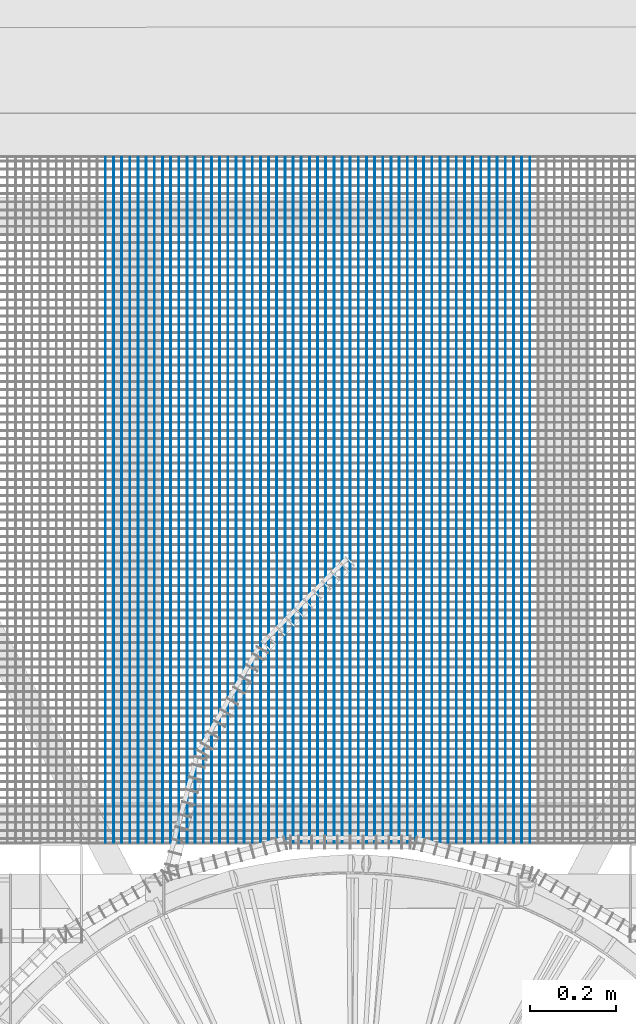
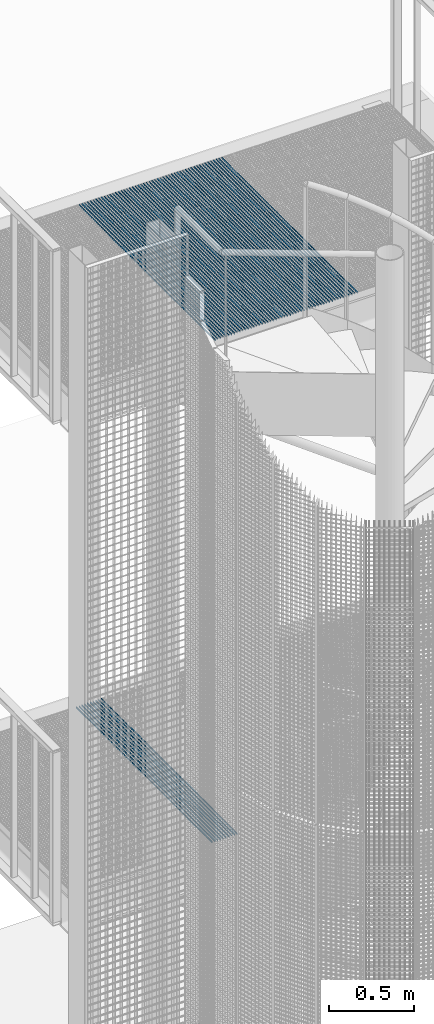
# One storey, part 81 of 1148: 62 beams, 2 elements without a shape of their own.
"""IFC2X3 building model written with IfcOpenShell, lengths in millimetres."""

from ifc_helpers import new_model, si_unit, frame, origin_with_axes, origin_2d_with_axis, place, context, subcontext, project, spatial, rectangle, extrude, material, type_object, element, aggregate, save


model = new_model("IFC2X3")

# Units and contexts
model_context = context("Model", 3, precision=1e-05, world=origin_with_axes())
body_context = subcontext(model_context, "Body", "Model", "MODEL_VIEW")
ifc_project = project(units=[si_unit("LENGTHUNIT", "METRE", prefix="MILLI"), si_unit("AREAUNIT", "SQUARE_METRE"), si_unit("VOLUMEUNIT", "CUBIC_METRE"), si_unit("MASSUNIT", "GRAM", prefix="KILO"), si_unit("TIMEUNIT", "SECOND"), si_unit("PLANEANGLEUNIT", "RADIAN"), si_unit("SOLIDANGLEUNIT", "STERADIAN"), si_unit("THERMODYNAMICTEMPERATUREUNIT", "DEGREE_CELSIUS"), si_unit("LUMINOUSINTENSITYUNIT", "LUMEN")], contexts=[model_context])

# Site, building, storey
site_placement = place(None, origin_with_axes())
site = spatial("IfcSite", under=ifc_project, at=site_placement, Name="Undefined", CompositionType="ELEMENT")
building_placement = place(site_placement, origin_with_axes())
building = spatial("IfcBuilding", under=site, at=building_placement, Name="Undefined", CompositionType="ELEMENT")
storey_placement = place(building_placement, origin_with_axes())
storey = spatial("IfcBuildingStorey", under=building, at=storey_placement, Name="Undefined", CompositionType="ELEMENT", Elevation=0.0)

# Assembly, beams
assembly_1_placement = place(storey_placement, origin_with_axes())
assembly_1 = element("IfcElementAssembly", 1, at=assembly_1_placement, inside=storey, Name="BORDURE", AssemblyPlace="NOTDEFINED", PredefinedType="NOTDEFINED")
ifc_material = material(Name="STEEL/S235JR")
beam_type = type_object("IfcBeamType", Name="PL2*10", PredefinedType="NOTDEFINED")
beam_1_placement = place(assembly_1_placement, frame((-550.92457525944, 1101.99960699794, 17285.0), z_axis=(0.0, 0.0, 1.0), x_axis=(-4.50599999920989e-06, 0.999999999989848, 0.0)))
beam_1 = element("IfcBeam", 2, at=beam_1_placement, type_object=beam_type, material=ifc_material, Name="ENTRETOISE", context=body_context, shape_type="SweptSolid", body=[
    extrude(rectangle(XDim=2.0, YDim=10.0, at=origin_2d_with_axis()), frame((1596.0000000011, -1.35186458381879e-18, -7.27595761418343e-12), z_axis=(-1.0, 0.0, 0.0), x_axis=(0.0, -1.0, 0.0)), (0.0, 0.0, 1.0), 1596.0),
])
beam_2_placement = place(assembly_1_placement, frame((-531.924575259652, 1101.99970051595, 17285.0), z_axis=(0.0, 0.0, 1.0), x_axis=(-4.50599999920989e-06, 0.999999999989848, 0.0)))
beam_2 = element("IfcBeam", 3, at=beam_2_placement, type_object=beam_type, material=ifc_material, Name="ENTRETOISE", context=body_context, shape_type="SweptSolid", body=[
    extrude(rectangle(XDim=2.0, YDim=10.0, at=origin_2d_with_axis()), frame((1596.0000000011, -1.35186458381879e-18, -7.27595761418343e-12), z_axis=(-1.0, 0.0, 0.0), x_axis=(0.0, -1.0, 0.0)), (0.0, 0.0, 1.0), 1596.0),
])
beam_3_placement = place(assembly_1_placement, frame((-512.924575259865, 1101.99979403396, 17285.0), z_axis=(0.0, 0.0, 1.0), x_axis=(-4.50599999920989e-06, 0.999999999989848, 0.0)))
beam_3 = element("IfcBeam", 4, at=beam_3_placement, type_object=beam_type, material=ifc_material, Name="ENTRETOISE", context=body_context, shape_type="SweptSolid", body=[
    extrude(rectangle(XDim=2.0, YDim=10.0, at=origin_2d_with_axis()), frame((1596.0000000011, -1.35186458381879e-18, -7.27595761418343e-12), z_axis=(-1.0, 0.0, 0.0), x_axis=(0.0, -1.0, 0.0)), (0.0, 0.0, 1.0), 1596.0),
])
beam_4_placement = place(assembly_1_placement, frame((-493.924575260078, 1101.99988755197, 17285.0), z_axis=(0.0, 0.0, 1.0), x_axis=(-4.50599999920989e-06, 0.999999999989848, 0.0)))
beam_4 = element("IfcBeam", 5, at=beam_4_placement, type_object=beam_type, material=ifc_material, Name="ENTRETOISE", context=body_context, shape_type="SweptSolid", body=[
    extrude(rectangle(XDim=2.0, YDim=10.0, at=origin_2d_with_axis()), frame((1596.0000000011, -1.35186458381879e-18, -7.27595761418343e-12), z_axis=(-1.0, 0.0, 0.0), x_axis=(0.0, -1.0, 0.0)), (0.0, 0.0, 1.0), 1596.0),
])
beam_5_placement = place(assembly_1_placement, frame((-474.924575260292, 1101.99998106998, 17285.0), z_axis=(0.0, 0.0, 1.0), x_axis=(-4.50599999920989e-06, 0.999999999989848, 0.0)))
beam_5 = element("IfcBeam", 6, at=beam_5_placement, type_object=beam_type, material=ifc_material, Name="ENTRETOISE", context=body_context, shape_type="SweptSolid", body=[
    extrude(rectangle(XDim=2.0, YDim=10.0, at=origin_2d_with_axis()), frame((1596.0000000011, -1.35186458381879e-18, -7.27595761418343e-12), z_axis=(-1.0, 0.0, 0.0), x_axis=(0.0, -1.0, 0.0)), (0.0, 0.0, 1.0), 1596.0),
])
beam_6_placement = place(assembly_1_placement, frame((-455.924575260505, 1102.00007458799, 17285.0), z_axis=(0.0, 0.0, 1.0), x_axis=(-4.50599999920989e-06, 0.999999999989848, 0.0)))
beam_6 = element("IfcBeam", 7, at=beam_6_placement, type_object=beam_type, material=ifc_material, Name="ENTRETOISE", context=body_context, shape_type="SweptSolid", body=[
    extrude(rectangle(XDim=2.0, YDim=10.0, at=origin_2d_with_axis()), frame((1596.0000000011, -1.35186458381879e-18, -7.27595761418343e-12), z_axis=(-1.0, 0.0, 0.0), x_axis=(0.0, -1.0, 0.0)), (0.0, 0.0, 1.0), 1596.0),
])
beam_7_placement = place(assembly_1_placement, frame((-436.924575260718, 1102.00016810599, 17285.0), z_axis=(0.0, 0.0, 1.0), x_axis=(-4.50599999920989e-06, 0.999999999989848, 0.0)))
beam_7 = element("IfcBeam", 8, at=beam_7_placement, type_object=beam_type, material=ifc_material, Name="ENTRETOISE", context=body_context, shape_type="SweptSolid", body=[
    extrude(rectangle(XDim=2.0, YDim=10.0, at=origin_2d_with_axis()), frame((1596.0000000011, -1.35186458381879e-18, -7.27595761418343e-12), z_axis=(-1.0, 0.0, 0.0), x_axis=(0.0, -1.0, 0.0)), (0.0, 0.0, 1.0), 1596.0),
])
beam_8_placement = place(assembly_1_placement, frame((-417.924575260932, 1102.000261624, 17285.0), z_axis=(0.0, 0.0, 1.0), x_axis=(-4.50599999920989e-06, 0.999999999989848, 0.0)))
beam_8 = element("IfcBeam", 9, at=beam_8_placement, type_object=beam_type, material=ifc_material, Name="ENTRETOISE", context=body_context, shape_type="SweptSolid", body=[
    extrude(rectangle(XDim=2.0, YDim=10.0, at=origin_2d_with_axis()), frame((1596.0000000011, -1.35186458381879e-18, -7.27595761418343e-12), z_axis=(-1.0, 0.0, 0.0), x_axis=(0.0, -1.0, 0.0)), (0.0, 0.0, 1.0), 1596.0),
])
beam_9_placement = place(assembly_1_placement, frame((-398.924575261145, 1102.00035514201, 17285.0), z_axis=(0.0, 0.0, 1.0), x_axis=(-4.50599999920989e-06, 0.999999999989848, 0.0)))
beam_9 = element("IfcBeam", 10, at=beam_9_placement, type_object=beam_type, material=ifc_material, Name="ENTRETOISE", context=body_context, shape_type="SweptSolid", body=[
    extrude(rectangle(XDim=2.0, YDim=10.0, at=origin_2d_with_axis()), frame((1596.0000000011, -1.35186458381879e-18, -7.27595761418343e-12), z_axis=(-1.0, 0.0, 0.0), x_axis=(0.0, -1.0, 0.0)), (0.0, 0.0, 1.0), 1596.0),
])
beam_10_placement = place(assembly_1_placement, frame((-379.924575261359, 1102.00044866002, 17285.0), z_axis=(0.0, 0.0, 1.0), x_axis=(-4.50599999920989e-06, 0.999999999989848, 0.0)))
beam_10 = element("IfcBeam", 11, at=beam_10_placement, type_object=beam_type, material=ifc_material, Name="ENTRETOISE", context=body_context, shape_type="SweptSolid", body=[
    extrude(rectangle(XDim=2.0, YDim=10.0, at=origin_2d_with_axis()), frame((1596.0000000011, -1.35186458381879e-18, -7.27595761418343e-12), z_axis=(-1.0, 0.0, 0.0), x_axis=(0.0, -1.0, 0.0)), (0.0, 0.0, 1.0), 1596.0),
])
beam_11_placement = place(assembly_1_placement, frame((-360.924575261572, 1102.00054217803, 17285.0), z_axis=(0.0, 0.0, 1.0), x_axis=(-4.50599999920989e-06, 0.999999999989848, 0.0)))
beam_11 = element("IfcBeam", 12, at=beam_11_placement, type_object=beam_type, material=ifc_material, Name="ENTRETOISE", context=body_context, shape_type="SweptSolid", body=[
    extrude(rectangle(XDim=2.0, YDim=10.0, at=origin_2d_with_axis()), frame((1596.0000000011, -1.35186458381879e-18, -7.27595761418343e-12), z_axis=(-1.0, 0.0, 0.0), x_axis=(0.0, -1.0, 0.0)), (0.0, 0.0, 1.0), 1596.0),
])
beam_12_placement = place(assembly_1_placement, frame((-341.924575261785, 1102.00063569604, 17285.0), z_axis=(0.0, 0.0, 1.0), x_axis=(-4.50599999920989e-06, 0.999999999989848, 0.0)))
beam_12 = element("IfcBeam", 13, at=beam_12_placement, type_object=beam_type, material=ifc_material, Name="ENTRETOISE", context=body_context, shape_type="SweptSolid", body=[
    extrude(rectangle(XDim=2.0, YDim=10.0, at=origin_2d_with_axis()), frame((1596.0000000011, -1.35186458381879e-18, -7.27595761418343e-12), z_axis=(-1.0, 0.0, 0.0), x_axis=(0.0, -1.0, 0.0)), (0.0, 0.0, 1.0), 1596.0),
])
beam_13_placement = place(assembly_1_placement, frame((-322.924575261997, 1102.00072921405, 17285.0), z_axis=(0.0, 0.0, 1.0), x_axis=(-4.50599999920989e-06, 0.999999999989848, 0.0)))
beam_13 = element("IfcBeam", 14, at=beam_13_placement, type_object=beam_type, material=ifc_material, Name="ENTRETOISE", context=body_context, shape_type="SweptSolid", body=[
    extrude(rectangle(XDim=2.0, YDim=10.0, at=origin_2d_with_axis()), frame((1596.0000000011, -1.35186458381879e-18, -7.27595761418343e-12), z_axis=(-1.0, 0.0, 0.0), x_axis=(0.0, -1.0, 0.0)), (0.0, 0.0, 1.0), 1596.0),
])
beam_14_placement = place(assembly_1_placement, frame((-303.924575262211, 1102.00082273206, 17285.0), z_axis=(0.0, 0.0, 1.0), x_axis=(-4.50599999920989e-06, 0.999999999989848, 0.0)))
beam_14 = element("IfcBeam", 15, at=beam_14_placement, type_object=beam_type, material=ifc_material, Name="ENTRETOISE", context=body_context, shape_type="SweptSolid", body=[
    extrude(rectangle(XDim=2.0, YDim=10.0, at=origin_2d_with_axis()), frame((1596.0000000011, -1.35186458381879e-18, -7.27595761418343e-12), z_axis=(-1.0, 0.0, 0.0), x_axis=(0.0, -1.0, 0.0)), (0.0, 0.0, 1.0), 1596.0),
])
beam_15_placement = place(assembly_1_placement, frame((-284.924575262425, 1102.00091625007, 17285.0), z_axis=(0.0, 0.0, 1.0), x_axis=(-4.50599999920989e-06, 0.999999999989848, 0.0)))
beam_15 = element("IfcBeam", 16, at=beam_15_placement, type_object=beam_type, material=ifc_material, Name="ENTRETOISE", context=body_context, shape_type="SweptSolid", body=[
    extrude(rectangle(XDim=2.0, YDim=10.0, at=origin_2d_with_axis()), frame((1596.0000000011, -1.35186458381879e-18, -7.27595761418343e-12), z_axis=(-1.0, 0.0, 0.0), x_axis=(0.0, -1.0, 0.0)), (0.0, 0.0, 1.0), 1596.0),
])
beam_16_placement = place(assembly_1_placement, frame((-265.924575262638, 1102.00100976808, 17285.0), z_axis=(0.0, 0.0, 1.0), x_axis=(-4.50599999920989e-06, 0.999999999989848, 0.0)))
beam_16 = element("IfcBeam", 17, at=beam_16_placement, type_object=beam_type, material=ifc_material, Name="ENTRETOISE", context=body_context, shape_type="SweptSolid", body=[
    extrude(rectangle(XDim=2.0, YDim=10.0, at=origin_2d_with_axis()), frame((1596.0000000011, -1.35186458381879e-18, -7.27595761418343e-12), z_axis=(-1.0, 0.0, 0.0), x_axis=(0.0, -1.0, 0.0)), (0.0, 0.0, 1.0), 1596.0),
])
beam_17_placement = place(assembly_1_placement, frame((-246.92457526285, 1102.00110328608, 17285.0), z_axis=(0.0, 0.0, 1.0), x_axis=(-4.50599999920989e-06, 0.999999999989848, 0.0)))
beam_17 = element("IfcBeam", 18, at=beam_17_placement, type_object=beam_type, material=ifc_material, Name="ENTRETOISE", context=body_context, shape_type="SweptSolid", body=[
    extrude(rectangle(XDim=2.0, YDim=10.0, at=origin_2d_with_axis()), frame((1596.0000000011, -1.35186458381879e-18, -7.27595761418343e-12), z_axis=(-1.0, 0.0, 0.0), x_axis=(0.0, -1.0, 0.0)), (0.0, 0.0, 1.0), 1596.0),
])
beam_18_placement = place(assembly_1_placement, frame((-227.924575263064, 1102.00119680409, 17285.0), z_axis=(0.0, 0.0, 1.0), x_axis=(-4.50599999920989e-06, 0.999999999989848, 0.0)))
beam_18 = element("IfcBeam", 19, at=beam_18_placement, type_object=beam_type, material=ifc_material, Name="ENTRETOISE", context=body_context, shape_type="SweptSolid", body=[
    extrude(rectangle(XDim=2.0, YDim=10.0, at=origin_2d_with_axis()), frame((1596.0000000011, -1.35186458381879e-18, -7.27595761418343e-12), z_axis=(-1.0, 0.0, 0.0), x_axis=(0.0, -1.0, 0.0)), (0.0, 0.0, 1.0), 1596.0),
])
beam_19_placement = place(assembly_1_placement, frame((-208.924575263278, 1102.0012903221, 17285.0), z_axis=(0.0, 0.0, 1.0), x_axis=(-4.50599999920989e-06, 0.999999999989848, 0.0)))
beam_19 = element("IfcBeam", 20, at=beam_19_placement, type_object=beam_type, material=ifc_material, Name="ENTRETOISE", context=body_context, shape_type="SweptSolid", body=[
    extrude(rectangle(XDim=2.0, YDim=10.0, at=origin_2d_with_axis()), frame((1596.0000000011, -1.35186458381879e-18, -7.27595761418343e-12), z_axis=(-1.0, 0.0, 0.0), x_axis=(0.0, -1.0, 0.0)), (0.0, 0.0, 1.0), 1596.0),
])
beam_20_placement = place(assembly_1_placement, frame((-189.924575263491, 1102.00138384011, 17285.0), z_axis=(0.0, 0.0, 1.0), x_axis=(-4.50599999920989e-06, 0.999999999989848, 0.0)))
beam_20 = element("IfcBeam", 21, at=beam_20_placement, type_object=beam_type, material=ifc_material, Name="ENTRETOISE", context=body_context, shape_type="SweptSolid", body=[
    extrude(rectangle(XDim=2.0, YDim=10.0, at=origin_2d_with_axis()), frame((1596.0000000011, -1.35186458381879e-18, -7.27595761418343e-12), z_axis=(-1.0, 0.0, 0.0), x_axis=(0.0, -1.0, 0.0)), (0.0, 0.0, 1.0), 1596.0),
])
beam_21_placement = place(assembly_1_placement, frame((-170.924575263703, 1102.00147735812, 17285.0), z_axis=(0.0, 0.0, 1.0), x_axis=(-4.50599999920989e-06, 0.999999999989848, 0.0)))
beam_21 = element("IfcBeam", 22, at=beam_21_placement, type_object=beam_type, material=ifc_material, Name="ENTRETOISE", context=body_context, shape_type="SweptSolid", body=[
    extrude(rectangle(XDim=2.0, YDim=10.0, at=origin_2d_with_axis()), frame((1596.0000000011, -1.35186458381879e-18, -7.27595761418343e-12), z_axis=(-1.0, 0.0, 0.0), x_axis=(0.0, -1.0, 0.0)), (0.0, 0.0, 1.0), 1596.0),
])
beam_22_placement = place(assembly_1_placement, frame((-151.924575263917, 1102.00157087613, 17285.0), z_axis=(0.0, 0.0, 1.0), x_axis=(-4.50599999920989e-06, 0.999999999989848, 0.0)))
beam_22 = element("IfcBeam", 23, at=beam_22_placement, type_object=beam_type, material=ifc_material, Name="ENTRETOISE", context=body_context, shape_type="SweptSolid", body=[
    extrude(rectangle(XDim=2.0, YDim=10.0, at=origin_2d_with_axis()), frame((1596.0000000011, -1.35186458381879e-18, -7.27595761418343e-12), z_axis=(-1.0, 0.0, 0.0), x_axis=(0.0, -1.0, 0.0)), (0.0, 0.0, 1.0), 1596.0),
])
beam_23_placement = place(assembly_1_placement, frame((-132.92457526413, 1102.00166439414, 17285.0), z_axis=(0.0, 0.0, 1.0), x_axis=(-4.50599999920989e-06, 0.999999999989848, 0.0)))
beam_23 = element("IfcBeam", 24, at=beam_23_placement, type_object=beam_type, material=ifc_material, Name="ENTRETOISE", context=body_context, shape_type="SweptSolid", body=[
    extrude(rectangle(XDim=2.0, YDim=10.0, at=origin_2d_with_axis()), frame((1596.0000000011, -1.35186458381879e-18, -7.27595761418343e-12), z_axis=(-1.0, 0.0, 0.0), x_axis=(0.0, -1.0, 0.0)), (0.0, 0.0, 1.0), 1596.0),
])
beam_24_placement = place(assembly_1_placement, frame((-113.924575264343, 1102.00175791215, 17285.0), z_axis=(0.0, 0.0, 1.0), x_axis=(-4.50599999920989e-06, 0.999999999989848, 0.0)))
beam_24 = element("IfcBeam", 25, at=beam_24_placement, type_object=beam_type, material=ifc_material, Name="ENTRETOISE", context=body_context, shape_type="SweptSolid", body=[
    extrude(rectangle(XDim=2.0, YDim=10.0, at=origin_2d_with_axis()), frame((1596.0000000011, -1.35186458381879e-18, -7.27595761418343e-12), z_axis=(-1.0, 0.0, 0.0), x_axis=(0.0, -1.0, 0.0)), (0.0, 0.0, 1.0), 1596.0),
])
beam_25_placement = place(assembly_1_placement, frame((-94.9245752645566, 1102.00185143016, 17285.0), z_axis=(0.0, 0.0, 1.0), x_axis=(-4.50599999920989e-06, 0.999999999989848, 0.0)))
beam_25 = element("IfcBeam", 26, at=beam_25_placement, type_object=beam_type, material=ifc_material, Name="ENTRETOISE", context=body_context, shape_type="SweptSolid", body=[
    extrude(rectangle(XDim=2.0, YDim=10.0, at=origin_2d_with_axis()), frame((1596.0000000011, -1.35186458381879e-18, -7.27595761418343e-12), z_axis=(-1.0, 0.0, 0.0), x_axis=(0.0, -1.0, 0.0)), (0.0, 0.0, 1.0), 1596.0),
])
beam_26_placement = place(assembly_1_placement, frame((-75.9245752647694, 1102.00194494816, 17285.0), z_axis=(0.0, 0.0, 1.0), x_axis=(-4.50599999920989e-06, 0.999999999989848, 0.0)))
beam_26 = element("IfcBeam", 27, at=beam_26_placement, type_object=beam_type, material=ifc_material, Name="ENTRETOISE", context=body_context, shape_type="SweptSolid", body=[
    extrude(rectangle(XDim=2.0, YDim=10.0, at=origin_2d_with_axis()), frame((1596.0000000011, -1.35186458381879e-18, -7.27595761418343e-12), z_axis=(-1.0, 0.0, 0.0), x_axis=(0.0, -1.0, 0.0)), (0.0, 0.0, 1.0), 1596.0),
])
beam_27_placement = place(assembly_1_placement, frame((-56.9245752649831, 1102.00203846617, 17285.0), z_axis=(0.0, 0.0, 1.0), x_axis=(-4.50599999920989e-06, 0.999999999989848, 0.0)))
beam_27 = element("IfcBeam", 28, at=beam_27_placement, type_object=beam_type, material=ifc_material, Name="ENTRETOISE", context=body_context, shape_type="SweptSolid", body=[
    extrude(rectangle(XDim=2.0, YDim=10.0, at=origin_2d_with_axis()), frame((1596.0000000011, -1.35186458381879e-18, -7.27595761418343e-12), z_axis=(-1.0, 0.0, 0.0), x_axis=(0.0, -1.0, 0.0)), (0.0, 0.0, 1.0), 1596.0),
])
beam_28_placement = place(assembly_1_placement, frame((-37.9245752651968, 1102.00213198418, 17285.0), z_axis=(0.0, 0.0, 1.0), x_axis=(-4.50599999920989e-06, 0.999999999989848, 0.0)))
beam_28 = element("IfcBeam", 29, at=beam_28_placement, type_object=beam_type, material=ifc_material, Name="ENTRETOISE", context=body_context, shape_type="SweptSolid", body=[
    extrude(rectangle(XDim=2.0, YDim=10.0, at=origin_2d_with_axis()), frame((1596.0000000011, -1.35186458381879e-18, -7.27595761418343e-12), z_axis=(-1.0, 0.0, 0.0), x_axis=(0.0, -1.0, 0.0)), (0.0, 0.0, 1.0), 1596.0),
])
beam_29_placement = place(assembly_1_placement, frame((-18.9245752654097, 1102.00222550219, 17285.0), z_axis=(0.0, 0.0, 1.0), x_axis=(-4.50599999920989e-06, 0.999999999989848, 0.0)))
beam_29 = element("IfcBeam", 30, at=beam_29_placement, type_object=beam_type, material=ifc_material, Name="ENTRETOISE", context=body_context, shape_type="SweptSolid", body=[
    extrude(rectangle(XDim=2.0, YDim=10.0, at=origin_2d_with_axis()), frame((1596.0000000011, -1.35186458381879e-18, -7.27595761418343e-12), z_axis=(-1.0, 0.0, 0.0), x_axis=(0.0, -1.0, 0.0)), (0.0, 0.0, 1.0), 1596.0),
])
beam_30_placement = place(assembly_1_placement, frame((0.075424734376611, 1102.0023190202, 17285.0), z_axis=(0.0, 0.0, 1.0), x_axis=(-4.50599999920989e-06, 0.999999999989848, 0.0)))
beam_30 = element("IfcBeam", 31, at=beam_30_placement, type_object=beam_type, material=ifc_material, Name="ENTRETOISE", context=body_context, shape_type="SweptSolid", body=[
    extrude(rectangle(XDim=2.0, YDim=10.0, at=origin_2d_with_axis()), frame((1596.0000000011, -1.35186458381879e-18, -7.27595761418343e-12), z_axis=(-1.0, 0.0, 0.0), x_axis=(0.0, -1.0, 0.0)), (0.0, 0.0, 1.0), 1596.0),
])
beam_31_placement = place(assembly_1_placement, frame((19.0754247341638, 1102.00241253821, 17285.0), z_axis=(0.0, 0.0, 1.0), x_axis=(-4.50599999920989e-06, 0.999999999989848, 0.0)))
beam_31 = element("IfcBeam", 32, at=beam_31_placement, type_object=beam_type, material=ifc_material, Name="ENTRETOISE", context=body_context, shape_type="SweptSolid", body=[
    extrude(rectangle(XDim=2.0, YDim=10.0, at=origin_2d_with_axis()), frame((1596.0000000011, -1.35186458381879e-18, -7.27595761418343e-12), z_axis=(-1.0, 0.0, 0.0), x_axis=(0.0, -1.0, 0.0)), (0.0, 0.0, 1.0), 1596.0),
])
beam_32_placement = place(assembly_1_placement, frame((38.0754247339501, 1102.00250605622, 17285.0), z_axis=(0.0, 0.0, 1.0), x_axis=(-4.50599999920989e-06, 0.999999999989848, 0.0)))
beam_32 = element("IfcBeam", 33, at=beam_32_placement, type_object=beam_type, material=ifc_material, Name="ENTRETOISE", context=body_context, shape_type="SweptSolid", body=[
    extrude(rectangle(XDim=2.0, YDim=10.0, at=origin_2d_with_axis()), frame((1596.0000000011, -1.35186458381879e-18, -7.27595761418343e-12), z_axis=(-1.0, 0.0, 0.0), x_axis=(0.0, -1.0, 0.0)), (0.0, 0.0, 1.0), 1596.0),
])
beam_33_placement = place(assembly_1_placement, frame((57.0754247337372, 1102.00259957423, 17285.0), z_axis=(0.0, 0.0, 1.0), x_axis=(-4.50599999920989e-06, 0.999999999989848, 0.0)))
beam_33 = element("IfcBeam", 34, at=beam_33_placement, type_object=beam_type, material=ifc_material, Name="ENTRETOISE", context=body_context, shape_type="SweptSolid", body=[
    extrude(rectangle(XDim=2.0, YDim=10.0, at=origin_2d_with_axis()), frame((1596.0000000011, -1.35186458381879e-18, -7.27595761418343e-12), z_axis=(-1.0, 0.0, 0.0), x_axis=(0.0, -1.0, 0.0)), (0.0, 0.0, 1.0), 1596.0),
])
beam_34_placement = place(assembly_1_placement, frame((76.0754247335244, 1102.00269309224, 17285.0), z_axis=(0.0, 0.0, 1.0), x_axis=(-4.50599999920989e-06, 0.999999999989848, 0.0)))
beam_34 = element("IfcBeam", 35, at=beam_34_placement, type_object=beam_type, material=ifc_material, Name="ENTRETOISE", context=body_context, shape_type="SweptSolid", body=[
    extrude(rectangle(XDim=2.0, YDim=10.0, at=origin_2d_with_axis()), frame((1596.0000000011, -1.35186458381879e-18, -7.27595761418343e-12), z_axis=(-1.0, 0.0, 0.0), x_axis=(0.0, -1.0, 0.0)), (0.0, 0.0, 1.0), 1596.0),
])
beam_35_placement = place(assembly_1_placement, frame((95.0754247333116, 1102.00278661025, 17285.0), z_axis=(0.0, 0.0, 1.0), x_axis=(-4.50599999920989e-06, 0.999999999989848, 0.0)))
beam_35 = element("IfcBeam", 36, at=beam_35_placement, type_object=beam_type, material=ifc_material, Name="ENTRETOISE", context=body_context, shape_type="SweptSolid", body=[
    extrude(rectangle(XDim=2.0, YDim=10.0, at=origin_2d_with_axis()), frame((1596.0000000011, -1.35186458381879e-18, -7.27595761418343e-12), z_axis=(-1.0, 0.0, 0.0), x_axis=(0.0, -1.0, 0.0)), (0.0, 0.0, 1.0), 1596.0),
])
beam_36_placement = place(assembly_1_placement, frame((114.075424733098, 1102.00288012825, 17285.0), z_axis=(0.0, 0.0, 1.0), x_axis=(-4.50599999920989e-06, 0.999999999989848, 0.0)))
beam_36 = element("IfcBeam", 37, at=beam_36_placement, type_object=beam_type, material=ifc_material, Name="ENTRETOISE", context=body_context, shape_type="SweptSolid", body=[
    extrude(rectangle(XDim=2.0, YDim=10.0, at=origin_2d_with_axis()), frame((1596.0000000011, -1.35186458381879e-18, -7.27595761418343e-12), z_axis=(-1.0, 0.0, 0.0), x_axis=(0.0, -1.0, 0.0)), (0.0, 0.0, 1.0), 1596.0),
])
beam_37_placement = place(assembly_1_placement, frame((133.075424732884, 1102.00297364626, 17285.0), z_axis=(0.0, 0.0, 1.0), x_axis=(-4.50599999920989e-06, 0.999999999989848, 0.0)))
beam_37 = element("IfcBeam", 38, at=beam_37_placement, type_object=beam_type, material=ifc_material, Name="ENTRETOISE", context=body_context, shape_type="SweptSolid", body=[
    extrude(rectangle(XDim=2.0, YDim=10.0, at=origin_2d_with_axis()), frame((1596.0000000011, -1.35186458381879e-18, -7.27595761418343e-12), z_axis=(-1.0, 0.0, 0.0), x_axis=(0.0, -1.0, 0.0)), (0.0, 0.0, 1.0), 1596.0),
])
beam_38_placement = place(assembly_1_placement, frame((152.075424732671, 1102.00306716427, 17285.0), z_axis=(0.0, 0.0, 1.0), x_axis=(-4.50599999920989e-06, 0.999999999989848, 0.0)))
beam_38 = element("IfcBeam", 39, at=beam_38_placement, type_object=beam_type, material=ifc_material, Name="ENTRETOISE", context=body_context, shape_type="SweptSolid", body=[
    extrude(rectangle(XDim=2.0, YDim=10.0, at=origin_2d_with_axis()), frame((1596.0000000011, -1.35186458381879e-18, -7.27595761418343e-12), z_axis=(-1.0, 0.0, 0.0), x_axis=(0.0, -1.0, 0.0)), (0.0, 0.0, 1.0), 1596.0),
])
beam_39_placement = place(assembly_1_placement, frame((171.075424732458, 1102.00316068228, 17285.0), z_axis=(0.0, 0.0, 1.0), x_axis=(-4.50599999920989e-06, 0.999999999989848, 0.0)))
beam_39 = element("IfcBeam", 40, at=beam_39_placement, type_object=beam_type, material=ifc_material, Name="ENTRETOISE", context=body_context, shape_type="SweptSolid", body=[
    extrude(rectangle(XDim=2.0, YDim=10.0, at=origin_2d_with_axis()), frame((1596.0000000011, -1.35186458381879e-18, -7.27595761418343e-12), z_axis=(-1.0, 0.0, 0.0), x_axis=(0.0, -1.0, 0.0)), (0.0, 0.0, 1.0), 1596.0),
])
beam_40_placement = place(assembly_1_placement, frame((190.075424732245, 1102.00325420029, 17285.0), z_axis=(0.0, 0.0, 1.0), x_axis=(-4.50599999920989e-06, 0.999999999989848, 0.0)))
beam_40 = element("IfcBeam", 41, at=beam_40_placement, type_object=beam_type, material=ifc_material, Name="ENTRETOISE", context=body_context, shape_type="SweptSolid", body=[
    extrude(rectangle(XDim=2.0, YDim=10.0, at=origin_2d_with_axis()), frame((1596.0000000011, -1.35186458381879e-18, -7.27595761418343e-12), z_axis=(-1.0, 0.0, 0.0), x_axis=(0.0, -1.0, 0.0)), (0.0, 0.0, 1.0), 1596.0),
])
beam_41_placement = place(assembly_1_placement, frame((209.075424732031, 1102.0033477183, 17285.0), z_axis=(0.0, 0.0, 1.0), x_axis=(-4.50599999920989e-06, 0.999999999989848, 0.0)))
beam_41 = element("IfcBeam", 42, at=beam_41_placement, type_object=beam_type, material=ifc_material, Name="ENTRETOISE", context=body_context, shape_type="SweptSolid", body=[
    extrude(rectangle(XDim=2.0, YDim=10.0, at=origin_2d_with_axis()), frame((1596.0000000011, -1.35186458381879e-18, -7.27595761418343e-12), z_axis=(-1.0, 0.0, 0.0), x_axis=(0.0, -1.0, 0.0)), (0.0, 0.0, 1.0), 1596.0),
])
beam_42_placement = place(assembly_1_placement, frame((228.075424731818, 1102.00344123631, 17285.0), z_axis=(0.0, 0.0, 1.0), x_axis=(-4.50599999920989e-06, 0.999999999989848, 0.0)))
beam_42 = element("IfcBeam", 43, at=beam_42_placement, type_object=beam_type, material=ifc_material, Name="ENTRETOISE", context=body_context, shape_type="SweptSolid", body=[
    extrude(rectangle(XDim=2.0, YDim=10.0, at=origin_2d_with_axis()), frame((1596.0000000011, -1.35186458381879e-18, -7.27595761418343e-12), z_axis=(-1.0, 0.0, 0.0), x_axis=(0.0, -1.0, 0.0)), (0.0, 0.0, 1.0), 1596.0),
])
beam_43_placement = place(assembly_1_placement, frame((247.075424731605, 1102.00353475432, 17285.0), z_axis=(0.0, 0.0, 1.0), x_axis=(-4.50599999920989e-06, 0.999999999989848, 0.0)))
beam_43 = element("IfcBeam", 44, at=beam_43_placement, type_object=beam_type, material=ifc_material, Name="ENTRETOISE", context=body_context, shape_type="SweptSolid", body=[
    extrude(rectangle(XDim=2.0, YDim=10.0, at=origin_2d_with_axis()), frame((1596.0000000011, -1.35186458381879e-18, -7.27595761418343e-12), z_axis=(-1.0, 0.0, 0.0), x_axis=(0.0, -1.0, 0.0)), (0.0, 0.0, 1.0), 1596.0),
])
beam_44_placement = place(assembly_1_placement, frame((266.075424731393, 1102.00362827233, 17285.0), z_axis=(0.0, 0.0, 1.0), x_axis=(-4.50599999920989e-06, 0.999999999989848, 0.0)))
beam_44 = element("IfcBeam", 45, at=beam_44_placement, type_object=beam_type, material=ifc_material, Name="ENTRETOISE", context=body_context, shape_type="SweptSolid", body=[
    extrude(rectangle(XDim=2.0, YDim=10.0, at=origin_2d_with_axis()), frame((1596.0000000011, -1.35186458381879e-18, -7.27595761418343e-12), z_axis=(-1.0, 0.0, 0.0), x_axis=(0.0, -1.0, 0.0)), (0.0, 0.0, 1.0), 1596.0),
])
beam_45_placement = place(assembly_1_placement, frame((285.075424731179, 1102.00372179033, 17285.0), z_axis=(0.0, 0.0, 1.0), x_axis=(-4.50599999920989e-06, 0.999999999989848, 0.0)))
beam_45 = element("IfcBeam", 46, at=beam_45_placement, type_object=beam_type, material=ifc_material, Name="ENTRETOISE", context=body_context, shape_type="SweptSolid", body=[
    extrude(rectangle(XDim=2.0, YDim=10.0, at=origin_2d_with_axis()), frame((1596.0000000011, -1.35186458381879e-18, -7.27595761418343e-12), z_axis=(-1.0, 0.0, 0.0), x_axis=(0.0, -1.0, 0.0)), (0.0, 0.0, 1.0), 1596.0),
])
beam_46_placement = place(assembly_1_placement, frame((304.075424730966, 1102.00381530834, 17285.0), z_axis=(0.0, 0.0, 1.0), x_axis=(-4.50599999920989e-06, 0.999999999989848, 0.0)))
beam_46 = element("IfcBeam", 47, at=beam_46_placement, type_object=beam_type, material=ifc_material, Name="ENTRETOISE", context=body_context, shape_type="SweptSolid", body=[
    extrude(rectangle(XDim=2.0, YDim=10.0, at=origin_2d_with_axis()), frame((1596.0000000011, -1.35186458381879e-18, -7.27595761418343e-12), z_axis=(-1.0, 0.0, 0.0), x_axis=(0.0, -1.0, 0.0)), (0.0, 0.0, 1.0), 1596.0),
])
beam_47_placement = place(assembly_1_placement, frame((323.075424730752, 1102.00390882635, 17285.0), z_axis=(0.0, 0.0, 1.0), x_axis=(-4.50599999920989e-06, 0.999999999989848, 0.0)))
beam_47 = element("IfcBeam", 48, at=beam_47_placement, type_object=beam_type, material=ifc_material, Name="ENTRETOISE", context=body_context, shape_type="SweptSolid", body=[
    extrude(rectangle(XDim=2.0, YDim=10.0, at=origin_2d_with_axis()), frame((1596.0000000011, -1.35186458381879e-18, -7.27595761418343e-12), z_axis=(-1.0, 0.0, 0.0), x_axis=(0.0, -1.0, 0.0)), (0.0, 0.0, 1.0), 1596.0),
])
beam_48_placement = place(assembly_1_placement, frame((342.075424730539, 1102.00400234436, 17285.0), z_axis=(0.0, 0.0, 1.0), x_axis=(-4.50599999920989e-06, 0.999999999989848, 0.0)))
beam_48 = element("IfcBeam", 49, at=beam_48_placement, type_object=beam_type, material=ifc_material, Name="ENTRETOISE", context=body_context, shape_type="SweptSolid", body=[
    extrude(rectangle(XDim=2.0, YDim=10.0, at=origin_2d_with_axis()), frame((1596.0000000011, -1.35186458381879e-18, -7.27595761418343e-12), z_axis=(-1.0, 0.0, 0.0), x_axis=(0.0, -1.0, 0.0)), (0.0, 0.0, 1.0), 1596.0),
])
beam_49_placement = place(assembly_1_placement, frame((361.075424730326, 1102.00409586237, 17285.0), z_axis=(0.0, 0.0, 1.0), x_axis=(-4.50599999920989e-06, 0.999999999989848, 0.0)))
beam_49 = element("IfcBeam", 50, at=beam_49_placement, type_object=beam_type, material=ifc_material, Name="ENTRETOISE", context=body_context, shape_type="SweptSolid", body=[
    extrude(rectangle(XDim=2.0, YDim=10.0, at=origin_2d_with_axis()), frame((1596.0000000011, -1.35186458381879e-18, -7.27595761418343e-12), z_axis=(-1.0, 0.0, 0.0), x_axis=(0.0, -1.0, 0.0)), (0.0, 0.0, 1.0), 1596.0),
])
beam_50_placement = place(assembly_1_placement, frame((380.075424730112, 1102.00418938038, 17285.0), z_axis=(0.0, 0.0, 1.0), x_axis=(-4.50599999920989e-06, 0.999999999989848, 0.0)))
beam_50 = element("IfcBeam", 51, at=beam_50_placement, type_object=beam_type, material=ifc_material, Name="ENTRETOISE", context=body_context, shape_type="SweptSolid", body=[
    extrude(rectangle(XDim=2.0, YDim=10.0, at=origin_2d_with_axis()), frame((1596.0000000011, -1.35186458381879e-18, -7.27595761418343e-12), z_axis=(-1.0, 0.0, 0.0), x_axis=(0.0, -1.0, 0.0)), (0.0, 0.0, 1.0), 1596.0),
])
beam_51_placement = place(assembly_1_placement, frame((399.075424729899, 1102.00428289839, 17285.0), z_axis=(0.0, 0.0, 1.0), x_axis=(-4.50599999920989e-06, 0.999999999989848, 0.0)))
beam_51 = element("IfcBeam", 52, at=beam_51_placement, type_object=beam_type, material=ifc_material, Name="ENTRETOISE", context=body_context, shape_type="SweptSolid", body=[
    extrude(rectangle(XDim=2.0, YDim=10.0, at=origin_2d_with_axis()), frame((1596.0000000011, -1.35186458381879e-18, -7.27595761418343e-12), z_axis=(-1.0, 0.0, 0.0), x_axis=(0.0, -1.0, 0.0)), (0.0, 0.0, 1.0), 1596.0),
])
beam_52_placement = place(assembly_1_placement, frame((418.075424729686, 1102.0043764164, 17285.0), z_axis=(0.0, 0.0, 1.0), x_axis=(-4.50599999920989e-06, 0.999999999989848, 0.0)))
beam_52 = element("IfcBeam", 53, at=beam_52_placement, type_object=beam_type, material=ifc_material, Name="ENTRETOISE", context=body_context, shape_type="SweptSolid", body=[
    extrude(rectangle(XDim=2.0, YDim=10.0, at=origin_2d_with_axis()), frame((1596.0000000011, -1.35186458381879e-18, -7.27595761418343e-12), z_axis=(-1.0, 0.0, 0.0), x_axis=(0.0, -1.0, 0.0)), (0.0, 0.0, 1.0), 1596.0),
])
aggregate(assembly_1, [beam_1, beam_2, beam_3, beam_4, beam_5, beam_6, beam_7, beam_8, beam_9, beam_10, beam_11, beam_12, beam_13, beam_14, beam_15, beam_16, beam_17, beam_18, beam_19, beam_20, beam_21, beam_22, beam_23, beam_24, beam_25, beam_26, beam_27, beam_28, beam_29, beam_30, beam_31, beam_32, beam_33, beam_34, beam_35, beam_36, beam_37, beam_38, beam_39, beam_40, beam_41, beam_42, beam_43, beam_44, beam_45, beam_46, beam_47, beam_48, beam_49, beam_50, beam_51, beam_52])

assembly_2_placement = place(storey_placement, origin_with_axes())
assembly_2 = element("IfcElementAssembly", 54, at=assembly_2_placement, inside=storey, Name="BORDURE", AssemblyPlace="NOTDEFINED", PredefinedType="NOTDEFINED")
beam_53_placement = place(assembly_2_placement, frame((-569.924575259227, 1101.99951347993, 13685.0), z_axis=(0.0, 0.0, 1.0), x_axis=(-4.50599999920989e-06, 0.999999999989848, 0.0)))
beam_53 = element("IfcBeam", 55, at=beam_53_placement, type_object=beam_type, material=ifc_material, Name="ENTRETOISE", context=body_context, shape_type="SweptSolid", body=[
    extrude(rectangle(XDim=2.0, YDim=10.0, at=origin_2d_with_axis()), frame((1596.0000000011, -1.35186458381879e-18, -7.27595761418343e-12), z_axis=(-1.0, 0.0, 0.0), x_axis=(0.0, -1.0, 0.0)), (0.0, 0.0, 1.0), 1596.0),
])
beam_54_placement = place(assembly_2_placement, frame((-550.92457525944, 1101.99960699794, 13685.0), z_axis=(0.0, 0.0, 1.0), x_axis=(-4.50599999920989e-06, 0.999999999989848, 0.0)))
beam_54 = element("IfcBeam", 56, at=beam_54_placement, type_object=beam_type, material=ifc_material, Name="ENTRETOISE", context=body_context, shape_type="SweptSolid", body=[
    extrude(rectangle(XDim=2.0, YDim=10.0, at=origin_2d_with_axis()), frame((1596.0000000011, -1.35186458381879e-18, -7.27595761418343e-12), z_axis=(-1.0, 0.0, 0.0), x_axis=(0.0, -1.0, 0.0)), (0.0, 0.0, 1.0), 1596.0),
])
beam_55_placement = place(assembly_2_placement, frame((-531.924575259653, 1101.99970051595, 13685.0), z_axis=(0.0, 0.0, 1.0), x_axis=(-4.50599999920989e-06, 0.999999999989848, 0.0)))
beam_55 = element("IfcBeam", 57, at=beam_55_placement, type_object=beam_type, material=ifc_material, Name="ENTRETOISE", context=body_context, shape_type="SweptSolid", body=[
    extrude(rectangle(XDim=2.0, YDim=10.0, at=origin_2d_with_axis()), frame((1596.0000000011, -1.35186458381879e-18, -7.27595761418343e-12), z_axis=(-1.0, 0.0, 0.0), x_axis=(0.0, -1.0, 0.0)), (0.0, 0.0, 1.0), 1596.0),
])
beam_56_placement = place(assembly_2_placement, frame((-512.924575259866, 1101.99979403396, 13685.0), z_axis=(0.0, 0.0, 1.0), x_axis=(-4.50599999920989e-06, 0.999999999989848, 0.0)))
beam_56 = element("IfcBeam", 58, at=beam_56_placement, type_object=beam_type, material=ifc_material, Name="ENTRETOISE", context=body_context, shape_type="SweptSolid", body=[
    extrude(rectangle(XDim=2.0, YDim=10.0, at=origin_2d_with_axis()), frame((1596.0000000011, -1.35186458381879e-18, -7.27595761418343e-12), z_axis=(-1.0, 0.0, 0.0), x_axis=(0.0, -1.0, 0.0)), (0.0, 0.0, 1.0), 1596.0),
])
beam_57_placement = place(assembly_2_placement, frame((-493.924575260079, 1101.99988755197, 13685.0), z_axis=(0.0, 0.0, 1.0), x_axis=(-4.50599999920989e-06, 0.999999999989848, 0.0)))
beam_57 = element("IfcBeam", 59, at=beam_57_placement, type_object=beam_type, material=ifc_material, Name="ENTRETOISE", context=body_context, shape_type="SweptSolid", body=[
    extrude(rectangle(XDim=2.0, YDim=10.0, at=origin_2d_with_axis()), frame((1596.0000000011, -1.35186458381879e-18, -7.27595761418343e-12), z_axis=(-1.0, 0.0, 0.0), x_axis=(0.0, -1.0, 0.0)), (0.0, 0.0, 1.0), 1596.0),
])
beam_58_placement = place(assembly_2_placement, frame((-474.924575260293, 1101.99998106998, 13685.0), z_axis=(0.0, 0.0, 1.0), x_axis=(-4.50599999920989e-06, 0.999999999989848, 0.0)))
beam_58 = element("IfcBeam", 60, at=beam_58_placement, type_object=beam_type, material=ifc_material, Name="ENTRETOISE", context=body_context, shape_type="SweptSolid", body=[
    extrude(rectangle(XDim=2.0, YDim=10.0, at=origin_2d_with_axis()), frame((1596.0000000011, -1.35186458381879e-18, -7.27595761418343e-12), z_axis=(-1.0, 0.0, 0.0), x_axis=(0.0, -1.0, 0.0)), (0.0, 0.0, 1.0), 1596.0),
])
beam_59_placement = place(assembly_2_placement, frame((-455.924575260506, 1102.00007458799, 13685.0), z_axis=(0.0, 0.0, 1.0), x_axis=(-4.50599999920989e-06, 0.999999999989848, 0.0)))
beam_59 = element("IfcBeam", 61, at=beam_59_placement, type_object=beam_type, material=ifc_material, Name="ENTRETOISE", context=body_context, shape_type="SweptSolid", body=[
    extrude(rectangle(XDim=2.0, YDim=10.0, at=origin_2d_with_axis()), frame((1596.0000000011, -1.35186458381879e-18, -7.27595761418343e-12), z_axis=(-1.0, 0.0, 0.0), x_axis=(0.0, -1.0, 0.0)), (0.0, 0.0, 1.0), 1596.0),
])
beam_60_placement = place(assembly_2_placement, frame((-436.924575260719, 1102.00016810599, 13685.0), z_axis=(0.0, 0.0, 1.0), x_axis=(-4.50599999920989e-06, 0.999999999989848, 0.0)))
beam_60 = element("IfcBeam", 62, at=beam_60_placement, type_object=beam_type, material=ifc_material, Name="ENTRETOISE", context=body_context, shape_type="SweptSolid", body=[
    extrude(rectangle(XDim=2.0, YDim=10.0, at=origin_2d_with_axis()), frame((1596.0000000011, -1.35186458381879e-18, -7.27595761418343e-12), z_axis=(-1.0, 0.0, 0.0), x_axis=(0.0, -1.0, 0.0)), (0.0, 0.0, 1.0), 1596.0),
])
beam_61_placement = place(assembly_2_placement, frame((-417.924575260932, 1102.000261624, 13685.0), z_axis=(0.0, 0.0, 1.0), x_axis=(-4.50599999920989e-06, 0.999999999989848, 0.0)))
beam_61 = element("IfcBeam", 63, at=beam_61_placement, type_object=beam_type, material=ifc_material, Name="ENTRETOISE", context=body_context, shape_type="SweptSolid", body=[
    extrude(rectangle(XDim=2.0, YDim=10.0, at=origin_2d_with_axis()), frame((1596.0000000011, -1.35186458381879e-18, -7.27595761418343e-12), z_axis=(-1.0, 0.0, 0.0), x_axis=(0.0, -1.0, 0.0)), (0.0, 0.0, 1.0), 1596.0),
])
beam_62_placement = place(assembly_2_placement, frame((-398.924575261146, 1102.00035514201, 13685.0), z_axis=(0.0, 0.0, 1.0), x_axis=(-4.50599999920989e-06, 0.999999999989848, 0.0)))
beam_62 = element("IfcBeam", 64, at=beam_62_placement, type_object=beam_type, material=ifc_material, Name="ENTRETOISE", context=body_context, shape_type="SweptSolid", body=[
    extrude(rectangle(XDim=2.0, YDim=10.0, at=origin_2d_with_axis()), frame((1596.0000000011, -1.35186458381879e-18, -7.27595761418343e-12), z_axis=(-1.0, 0.0, 0.0), x_axis=(0.0, -1.0, 0.0)), (0.0, 0.0, 1.0), 1596.0),
])
aggregate(assembly_2, [beam_53, beam_54, beam_55, beam_56, beam_57, beam_58, beam_59, beam_60, beam_61, beam_62])

save(model, "model.ifc")
